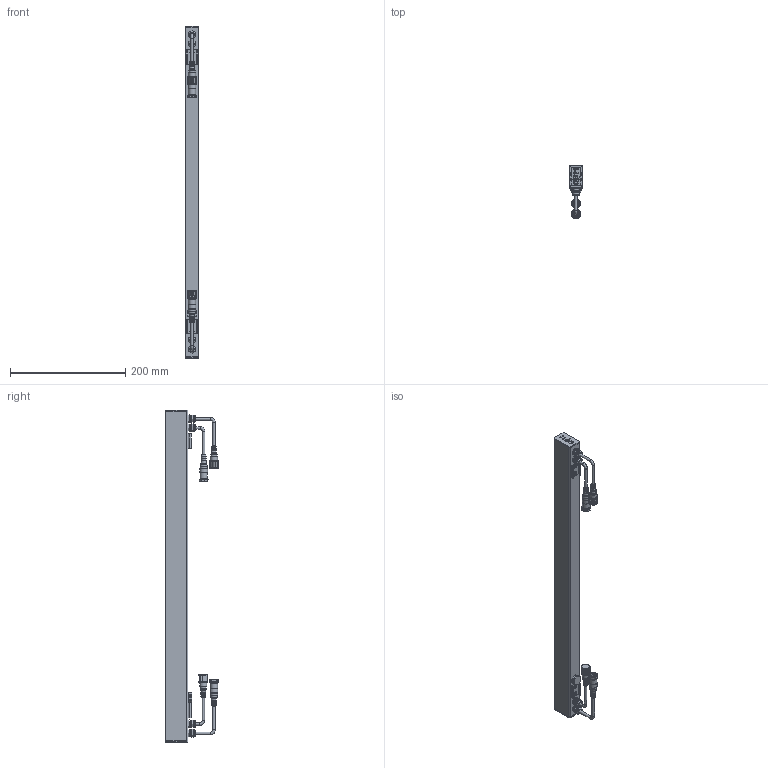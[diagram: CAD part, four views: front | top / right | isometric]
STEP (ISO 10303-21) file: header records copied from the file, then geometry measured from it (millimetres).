
FILE_DESCRIPTION(/* description */ ('Unknown'),/* implementation_level */ '2;1');
FILE_NAME(/* name */ 'PASEO X 0-10V 22.7',/* time_stamp */ '2023-02-07T16:54:09+01:00',/* author */ ('Unknown'),/* organization */ ('Unknown'),/* preprocessor_version */ 'ST-DEVELOPER v18.1',/* originating_system */ 'Solid Edge',/* authorisation */ 'Unknown');
FILE_SCHEMA (('AUTOMOTIVE_DESIGN {1 0 10303 214 3 1 1}'));
Products named in the file (1): paseo x 0-10 575_Semplifica
Bounding box: 24 x 92.13 x 575.7 mm (x, y, z)
Volume: 214604.9 mm3; surface area: 181898.3 mm2
Topology: 3 solids, 3 shells, 1708 faces, 4079 edges, 2528 vertices
Faces by surface type: plane 811, cylinder 578, bspline 138, torus 84, cone 81, sphere 16
Full cylindrical faces by diameter (mm): 0.5 x36, 0.7 x45, 2.964 x4, 3.2 x4, 3.5 x4, 4.262 x4, 4.591 x4, 5.5 x4, 6.962 x4, 7 x9, 8.043 x2, 8.085 x4, 8.223 x6, 8.583 x2, 8.637 x2, 8.821 x6, 9.311 x2, 10 x8, 10.2 x4, 10.804 x2, 12 x13, 12.544 x2, 12.682 x4, 13.602 x2, 14.5 x2, 16 x2
Entity records: 62809 total; most frequent: CARTESIAN_POINT 13975, DIRECTION 8018, ORIENTED_EDGE 7432, EDGE_CURVE 3716, AXIS2_PLACEMENT_3D 3112, VERTEX_POINT 2438, EDGE_LOOP 2170, FACE_BOUND 2170
